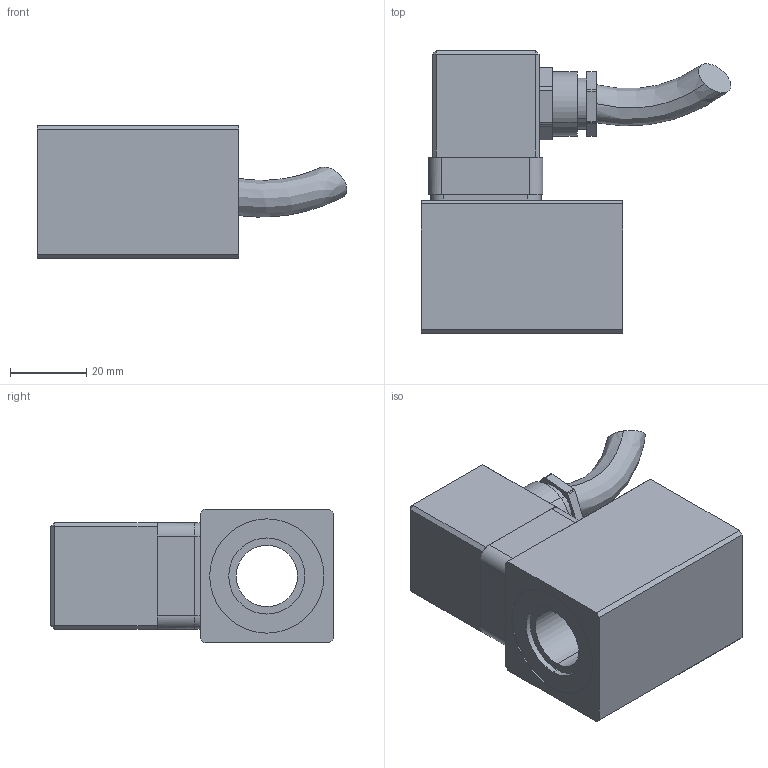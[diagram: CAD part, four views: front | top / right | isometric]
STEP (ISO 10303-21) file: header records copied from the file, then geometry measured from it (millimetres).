
FILE_DESCRIPTION (( 'STEP AP214' ), '1' );
FILE_NAME ('MKS35_16x50-M28-AC.STEP', '2015-07-07T04:58:29', ( '' ), ( '' ), 'SwSTEP 2.0', 'SolidWorks 2014', '' );
FILE_SCHEMA (( 'AUTOMOTIVE_DESIGN' ));
Length unit declared in the file: millimetre
Products named in the file (2): MKS35_16x50-M28-AC
Bounding box: 81.36 x 74.3 x 35 mm (x, y, z)
Volume: 88117.2 mm3; surface area: 21180.2 mm2
Topology: 2 solids, 12 shells, 270 faces, 630 edges, 398 vertices
Faces by surface type: plane 152, cylinder 94, cone 12, torus 10, bspline 2
Entity records: 10829 total; most frequent: CARTESIAN_POINT 1757, DIRECTION 1378, ORIENTED_EDGE 1252, EDGE_CURVE 626, AXIS2_PLACEMENT_3D 511, VERTEX_POINT 398, VECTOR 356, LINE 356
